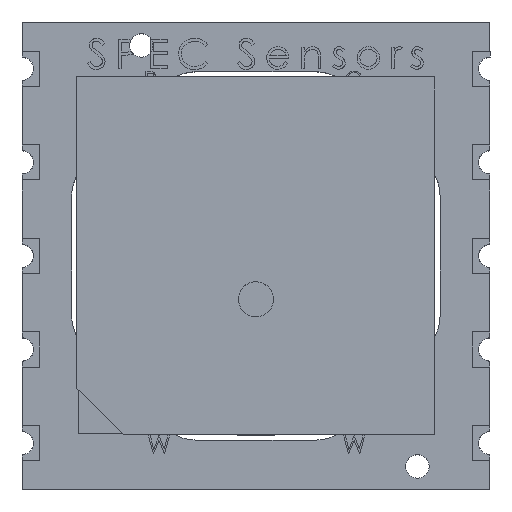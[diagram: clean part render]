
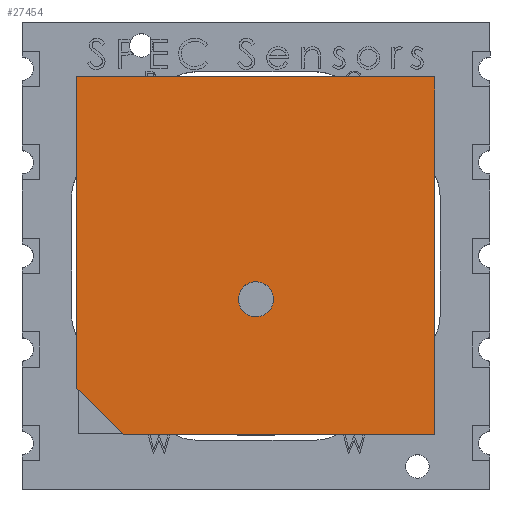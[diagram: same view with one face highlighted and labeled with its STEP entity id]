
A CAD part, top view. The second image highlights one B-rep face of the part: STEP entity #27454.
In plain terms, the highlighted planar face has unit normal (0, 0, 1).
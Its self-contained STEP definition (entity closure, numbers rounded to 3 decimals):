
#722 = CARTESIAN_POINT ( 'NONE',  ( -11.612, 12.884, 0.389 ) ) ;
#1782 = EDGE_CURVE ( 'NONE', #16068, #27343, #9029, .T. ) ;
#2086 = AXIS2_PLACEMENT_3D ( 'NONE', #4973, #18093, #7106 ) ;
#3017 = DIRECTION ( 'NONE',  ( 0.707, -0.707, 0. ) ) ;
#3343 = CARTESIAN_POINT ( 'NONE',  ( -4.712, 22.389, 0.389 ) ) ;
#3932 = EDGE_CURVE ( 'NONE', #19428, #16711, #7382, .T. ) ;
#4973 = CARTESIAN_POINT ( 'NONE',  ( -12.362, 12.884, 0.389 ) ) ;
#5436 = LINE ( 'NONE', #21449, #8225 ) ;
#5591 = DIRECTION ( 'NONE',  ( 1., 0., 0. ) ) ;
#5692 = CARTESIAN_POINT ( 'NONE',  ( -4.712, 22.389, 0.389 ) ) ;
#5806 = ORIENTED_EDGE ( 'NONE', *, *, #12848, .T. ) ;
#7106 = DIRECTION ( 'NONE',  ( 1., 0., 0. ) ) ;
#7382 = LINE ( 'NONE', #5692, #10878 ) ;
#7807 = CARTESIAN_POINT ( 'NONE',  ( -20.012, 9.089, 0.389 ) ) ;
#7816 = LINE ( 'NONE', #25193, #28844 ) ;
#8225 = VECTOR ( 'NONE', #12837, 1000. ) ;
#8303 = DIRECTION ( 'NONE',  ( 0., 1., 0. ) ) ;
#8416 = VECTOR ( 'NONE', #3017, 1000. ) ;
#8930 = EDGE_CURVE ( 'NONE', #12868, #12868, #25336, .T. ) ;
#9029 = LINE ( 'NONE', #10055, #19592 ) ;
#9222 = VERTEX_POINT ( 'NONE', #22478 ) ;
#10055 = CARTESIAN_POINT ( 'NONE',  ( -20.012, 22.389, 0.389 ) ) ;
#10280 = AXIS2_PLACEMENT_3D ( 'NONE', #10420, #12677, #5591 ) ;
#10420 = CARTESIAN_POINT ( 'NONE',  ( 0., 0., 0.389 ) ) ;
#10878 = VECTOR ( 'NONE', #8303, 1000. ) ;
#11198 = CARTESIAN_POINT ( 'NONE',  ( -20.012, 9.089, 0.389 ) ) ;
#12162 = FACE_BOUND ( 'NONE', #12900, .T. ) ;
#12357 = ORIENTED_EDGE ( 'NONE', *, *, #8930, .F. ) ;
#12677 = DIRECTION ( 'NONE',  ( 0., 0., 1. ) ) ;
#12837 = DIRECTION ( 'NONE',  ( 1., 0., 0. ) ) ;
#12848 = EDGE_CURVE ( 'NONE', #9222, #19428, #5436, .T. ) ;
#12868 = VERTEX_POINT ( 'NONE', #722 ) ;
#12900 = EDGE_LOOP ( 'NONE', ( #12357 ) ) ;
#14117 = EDGE_CURVE ( 'NONE', #27343, #9222, #25592, .T. ) ;
#15325 = CARTESIAN_POINT ( 'NONE',  ( -20.012, 22.389, 0.389 ) ) ;
#16068 = VERTEX_POINT ( 'NONE', #15325 ) ;
#16711 = VERTEX_POINT ( 'NONE', #3343 ) ;
#18093 = DIRECTION ( 'NONE',  ( 0., 0., 1. ) ) ;
#18489 = FACE_OUTER_BOUND ( 'NONE', #21116, .T. ) ;
#19428 = VERTEX_POINT ( 'NONE', #19591 ) ;
#19591 = CARTESIAN_POINT ( 'NONE',  ( -4.712, 7.089, 0.389 ) ) ;
#19592 = VECTOR ( 'NONE', #26215, 1000. ) ;
#21102 = DIRECTION ( 'NONE',  ( -1., 0., 0. ) ) ;
#21116 = EDGE_LOOP ( 'NONE', ( #27395, #22654, #22685, #28639, #5806 ) ) ;
#21449 = CARTESIAN_POINT ( 'NONE',  ( -18.012, 7.089, 0.389 ) ) ;
#21592 = PLANE ( 'NONE',  #10280 ) ;
#22478 = CARTESIAN_POINT ( 'NONE',  ( -18.012, 7.089, 0.389 ) ) ;
#22654 = ORIENTED_EDGE ( 'NONE', *, *, #25667, .T. ) ;
#22685 = ORIENTED_EDGE ( 'NONE', *, *, #1782, .T. ) ;
#25193 = CARTESIAN_POINT ( 'NONE',  ( -20.012, 22.389, 0.389 ) ) ;
#25336 = CIRCLE ( 'NONE', #2086, 0.75 ) ;
#25592 = LINE ( 'NONE', #11198, #8416 ) ;
#25667 = EDGE_CURVE ( 'NONE', #16711, #16068, #7816, .T. ) ;
#26215 = DIRECTION ( 'NONE',  ( 0., -1., 0. ) ) ;
#27343 = VERTEX_POINT ( 'NONE', #7807 ) ;
#27395 = ORIENTED_EDGE ( 'NONE', *, *, #3932, .T. ) ;
#27454 = ADVANCED_FACE ( 'NONE', ( #12162, #18489 ), #21592, .T. ) ;
#28639 = ORIENTED_EDGE ( 'NONE', *, *, #14117, .T. ) ;
#28844 = VECTOR ( 'NONE', #21102, 1000. ) ;
